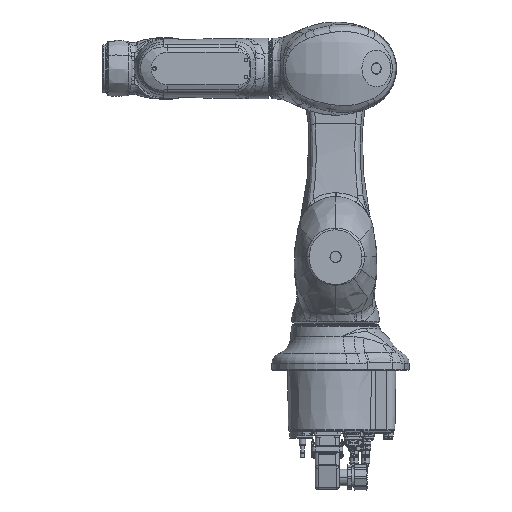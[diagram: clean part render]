
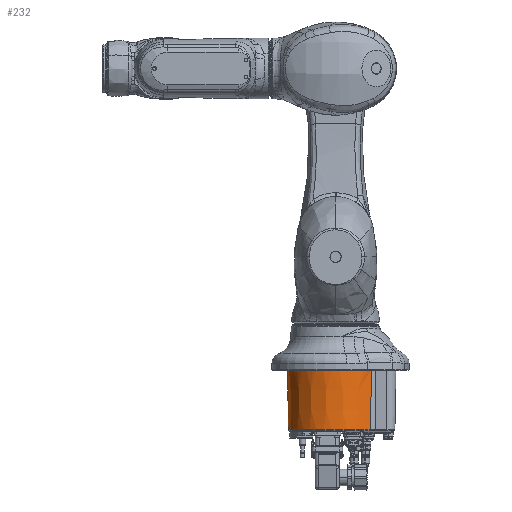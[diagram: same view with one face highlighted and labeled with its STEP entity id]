
A CAD part, left-side view. The second image highlights one B-rep face of the part: STEP entity #232.
In plain terms, the highlighted conical face has half-angle 1 degrees and reference radius 85 mm.
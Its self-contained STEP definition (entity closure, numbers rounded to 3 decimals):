
#62=CARTESIAN_POINT('Axis2P3D Location',(0.,0.,-108.)) ;
#67=CARTESIAN_POINT('Line Origine',(-57.649,-63.857,-49.)) ;
#71=CARTESIAN_POINT('Vertex',(-58.231,-64.502,0.729)) ;
#73=CARTESIAN_POINT('Vertex',(-56.968,-63.103,-107.224)) ;
#76=CARTESIAN_POINT('Axis2P3D Location',(0.,0.,0.729)) ;
#80=CARTESIAN_POINT('Vertex',(-75.676,-42.713,0.729)) ;
#84=CARTESIAN_POINT('Control Point',(-75.676,-42.713,0.729)) ;
#85=CARTESIAN_POINT('Control Point',(-76.383,-41.46,0.729)) ;
#86=CARTESIAN_POINT('Control Point',(-77.062,-40.191,0.568)) ;
#87=CARTESIAN_POINT('Control Point',(-77.722,-38.892,0.294)) ;
#88=CARTESIAN_POINT('Control Point',(-78.386,-37.515,0.052)) ;
#89=CARTESIAN_POINT('Control Point',(-79.057,-36.045,0.052)) ;
#90=CARTESIAN_POINT('Vertex',(-79.057,-36.045,0.052)) ;
#93=CARTESIAN_POINT('Axis2P3D Location',(0.,0.,0.052)) ;
#97=CARTESIAN_POINT('Vertex',(-79.057,36.045,0.052)) ;
#101=CARTESIAN_POINT('Control Point',(-75.676,42.713,0.729)) ;
#102=CARTESIAN_POINT('Control Point',(-76.383,41.46,0.729)) ;
#103=CARTESIAN_POINT('Control Point',(-77.064,40.187,0.568)) ;
#104=CARTESIAN_POINT('Control Point',(-77.721,38.894,0.294)) ;
#105=CARTESIAN_POINT('Control Point',(-78.386,37.515,0.052)) ;
#106=CARTESIAN_POINT('Control Point',(-79.057,36.045,0.052)) ;
#107=CARTESIAN_POINT('Vertex',(-75.676,42.713,0.729)) ;
#110=CARTESIAN_POINT('Axis2P3D Location',(0.,0.,0.729)) ;
#114=CARTESIAN_POINT('Vertex',(-42.713,75.676,0.729)) ;
#118=CARTESIAN_POINT('Control Point',(-42.713,75.676,0.729)) ;
#119=CARTESIAN_POINT('Control Point',(-41.46,76.383,0.729)) ;
#120=CARTESIAN_POINT('Control Point',(-40.191,77.062,0.568)) ;
#121=CARTESIAN_POINT('Control Point',(-38.892,77.722,0.294)) ;
#122=CARTESIAN_POINT('Control Point',(-37.515,78.386,0.052)) ;
#123=CARTESIAN_POINT('Control Point',(-36.045,79.057,0.052)) ;
#124=CARTESIAN_POINT('Vertex',(-36.045,79.057,0.052)) ;
#127=CARTESIAN_POINT('Axis2P3D Location',(0.,0.,0.052)) ;
#131=CARTESIAN_POINT('Vertex',(36.045,79.057,0.052)) ;
#135=CARTESIAN_POINT('Control Point',(42.713,75.676,0.729)) ;
#136=CARTESIAN_POINT('Control Point',(41.46,76.383,0.729)) ;
#137=CARTESIAN_POINT('Control Point',(40.187,77.064,0.568)) ;
#138=CARTESIAN_POINT('Control Point',(38.894,77.721,0.294)) ;
#139=CARTESIAN_POINT('Control Point',(37.515,78.386,0.052)) ;
#140=CARTESIAN_POINT('Control Point',(36.045,79.057,0.052)) ;
#141=CARTESIAN_POINT('Vertex',(42.713,75.676,0.729)) ;
#144=CARTESIAN_POINT('Axis2P3D Location',(0.,0.,0.729)) ;
#148=CARTESIAN_POINT('Vertex',(75.676,42.713,0.729)) ;
#152=CARTESIAN_POINT('Control Point',(75.676,42.713,0.729)) ;
#153=CARTESIAN_POINT('Control Point',(76.383,41.46,0.729)) ;
#154=CARTESIAN_POINT('Control Point',(77.062,40.191,0.568)) ;
#155=CARTESIAN_POINT('Control Point',(77.722,38.892,0.294)) ;
#156=CARTESIAN_POINT('Control Point',(78.386,37.515,0.052)) ;
#157=CARTESIAN_POINT('Control Point',(79.057,36.045,0.052)) ;
#158=CARTESIAN_POINT('Vertex',(79.057,36.045,0.052)) ;
#161=CARTESIAN_POINT('Axis2P3D Location',(0.,0.,0.052)) ;
#165=CARTESIAN_POINT('Vertex',(79.057,-36.045,0.052)) ;
#169=CARTESIAN_POINT('Control Point',(75.676,-42.713,0.729)) ;
#170=CARTESIAN_POINT('Control Point',(76.383,-41.46,0.729)) ;
#171=CARTESIAN_POINT('Control Point',(77.064,-40.187,0.568)) ;
#172=CARTESIAN_POINT('Control Point',(77.721,-38.894,0.294)) ;
#173=CARTESIAN_POINT('Control Point',(78.386,-37.515,0.052)) ;
#174=CARTESIAN_POINT('Control Point',(79.057,-36.045,0.052)) ;
#175=CARTESIAN_POINT('Vertex',(75.676,-42.713,0.729)) ;
#178=CARTESIAN_POINT('Axis2P3D Location',(0.,0.,0.729)) ;
#182=CARTESIAN_POINT('Vertex',(58.231,-64.502,0.729)) ;
#185=CARTESIAN_POINT('Line Origine',(57.649,-63.857,-49.)) ;
#189=CARTESIAN_POINT('Vertex',(56.968,-63.103,-107.224)) ;
#192=CARTESIAN_POINT('Axis2P3D Location',(0.,0.,-107.224)) ;
#196=CARTESIAN_POINT('Vertex',(-70.53,-47.464,-107.224)) ;
#200=CARTESIAN_POINT('Control Point',(-70.096,-48.102,-107.224)) ;
#201=CARTESIAN_POINT('Control Point',(-70.242,-47.89,-107.224)) ;
#202=CARTESIAN_POINT('Control Point',(-70.386,-47.677,-107.224)) ;
#203=CARTESIAN_POINT('Control Point',(-70.53,-47.464,-107.224)) ;
#204=CARTESIAN_POINT('Vertex',(-70.096,-48.102,-107.224)) ;
#207=CARTESIAN_POINT('Axis2P3D Location',(0.,0.,-107.224)) ;
#63=DIRECTION('Axis2P3D Direction',(0.,0.,1.)) ;
#64=DIRECTION('Axis2P3D XDirection',(0.67,-0.742,0.)) ;
#68=DIRECTION('Vector Direction',(-0.012,-0.013,1.)) ;
#77=DIRECTION('Axis2P3D Direction',(0.,0.,1.)) ;
#94=DIRECTION('Axis2P3D Direction',(0.,0.,1.)) ;
#111=DIRECTION('Axis2P3D Direction',(0.,0.,1.)) ;
#128=DIRECTION('Axis2P3D Direction',(0.,0.,1.)) ;
#145=DIRECTION('Axis2P3D Direction',(0.,0.,1.)) ;
#162=DIRECTION('Axis2P3D Direction',(0.,0.,1.)) ;
#179=DIRECTION('Axis2P3D Direction',(0.,0.,1.)) ;
#186=DIRECTION('Vector Direction',(0.012,-0.013,1.)) ;
#193=DIRECTION('Axis2P3D Direction',(0.,0.,1.)) ;
#208=DIRECTION('Axis2P3D Direction',(0.,0.,1.)) ;
#65=AXIS2_PLACEMENT_3D('Cone Axis2P3D',#62,#63,#64) ;
#78=AXIS2_PLACEMENT_3D('Circle Axis2P3D',#76,#77,$) ;
#95=AXIS2_PLACEMENT_3D('Circle Axis2P3D',#93,#94,$) ;
#112=AXIS2_PLACEMENT_3D('Circle Axis2P3D',#110,#111,$) ;
#129=AXIS2_PLACEMENT_3D('Circle Axis2P3D',#127,#128,$) ;
#146=AXIS2_PLACEMENT_3D('Circle Axis2P3D',#144,#145,$) ;
#163=AXIS2_PLACEMENT_3D('Circle Axis2P3D',#161,#162,$) ;
#180=AXIS2_PLACEMENT_3D('Circle Axis2P3D',#178,#179,$) ;
#194=AXIS2_PLACEMENT_3D('Circle Axis2P3D',#192,#193,$) ;
#209=AXIS2_PLACEMENT_3D('Circle Axis2P3D',#207,#208,$) ;
#213=ORIENTED_EDGE('',*,*,#75,.F.) ;
#214=ORIENTED_EDGE('',*,*,#82,.T.) ;
#215=ORIENTED_EDGE('',*,*,#92,.T.) ;
#216=ORIENTED_EDGE('',*,*,#99,.T.) ;
#217=ORIENTED_EDGE('',*,*,#109,.T.) ;
#218=ORIENTED_EDGE('',*,*,#116,.T.) ;
#219=ORIENTED_EDGE('',*,*,#126,.T.) ;
#220=ORIENTED_EDGE('',*,*,#133,.T.) ;
#221=ORIENTED_EDGE('',*,*,#143,.T.) ;
#222=ORIENTED_EDGE('',*,*,#150,.T.) ;
#223=ORIENTED_EDGE('',*,*,#160,.T.) ;
#224=ORIENTED_EDGE('',*,*,#167,.T.) ;
#225=ORIENTED_EDGE('',*,*,#177,.T.) ;
#226=ORIENTED_EDGE('',*,*,#184,.T.) ;
#227=ORIENTED_EDGE('',*,*,#191,.T.) ;
#228=ORIENTED_EDGE('',*,*,#198,.F.) ;
#229=ORIENTED_EDGE('',*,*,#206,.F.) ;
#230=ORIENTED_EDGE('',*,*,#211,.F.) ;
#69=VECTOR('Line Direction',#68,1.) ;
#187=VECTOR('Line Direction',#186,1.) ;
#232=ADVANCED_FACE('BASE',(#231),#66,.T.) ;
#83=B_SPLINE_CURVE_WITH_KNOTS('',5,(#84,#85,#86,#87,#88,#89),.UNSPECIFIED.,.F.,.U.,(6,6),(10.823,21.648),.UNSPECIFIED.) ;
#100=B_SPLINE_CURVE_WITH_KNOTS('',5,(#101,#102,#103,#104,#105,#106),.UNSPECIFIED.,.F.,.U.,(6,6),(10.823,21.649),.UNSPECIFIED.) ;
#117=B_SPLINE_CURVE_WITH_KNOTS('',5,(#118,#119,#120,#121,#122,#123),.UNSPECIFIED.,.F.,.U.,(6,6),(10.823,21.648),.UNSPECIFIED.) ;
#134=B_SPLINE_CURVE_WITH_KNOTS('',5,(#135,#136,#137,#138,#139,#140),.UNSPECIFIED.,.F.,.U.,(6,6),(10.823,21.649),.UNSPECIFIED.) ;
#151=B_SPLINE_CURVE_WITH_KNOTS('',5,(#152,#153,#154,#155,#156,#157),.UNSPECIFIED.,.F.,.U.,(6,6),(10.823,21.648),.UNSPECIFIED.) ;
#168=B_SPLINE_CURVE_WITH_KNOTS('',5,(#169,#170,#171,#172,#173,#174),.UNSPECIFIED.,.F.,.U.,(6,6),(10.823,21.649),.UNSPECIFIED.) ;
#199=B_SPLINE_CURVE_WITH_KNOTS('',3,(#200,#201,#202,#203),.UNSPECIFIED.,.F.,.U.,(4,4),(16.49,17.69),.UNSPECIFIED.) ;
#79=CIRCLE('generated circle',#78,86.898) ;
#96=CIRCLE('generated circle',#95,86.886) ;
#113=CIRCLE('generated circle',#112,86.898) ;
#130=CIRCLE('generated circle',#129,86.886) ;
#147=CIRCLE('generated circle',#146,86.898) ;
#164=CIRCLE('generated circle',#163,86.886) ;
#181=CIRCLE('generated circle',#180,86.898) ;
#195=CIRCLE('generated circle',#194,85.014) ;
#210=CIRCLE('generated circle',#209,85.014) ;
#66=CONICAL_SURFACE('Cone',#65,85.,0.017) ;
#75=EDGE_CURVE('',#72,#74,#70,.F.) ;
#82=EDGE_CURVE('',#72,#81,#79,.F.) ;
#92=EDGE_CURVE('',#81,#91,#83,.T.) ;
#99=EDGE_CURVE('',#91,#98,#96,.F.) ;
#109=EDGE_CURVE('',#98,#108,#100,.F.) ;
#116=EDGE_CURVE('',#108,#115,#113,.F.) ;
#126=EDGE_CURVE('',#115,#125,#117,.T.) ;
#133=EDGE_CURVE('',#125,#132,#130,.F.) ;
#143=EDGE_CURVE('',#132,#142,#134,.F.) ;
#150=EDGE_CURVE('',#142,#149,#147,.F.) ;
#160=EDGE_CURVE('',#149,#159,#151,.T.) ;
#167=EDGE_CURVE('',#159,#166,#164,.F.) ;
#177=EDGE_CURVE('',#166,#176,#168,.F.) ;
#184=EDGE_CURVE('',#176,#183,#181,.F.) ;
#191=EDGE_CURVE('',#183,#190,#188,.F.) ;
#198=EDGE_CURVE('',#197,#190,#195,.F.) ;
#206=EDGE_CURVE('',#205,#197,#199,.T.) ;
#211=EDGE_CURVE('',#74,#205,#210,.F.) ;
#212=EDGE_LOOP('',(#213,#214,#215,#216,#217,#218,#219,#220,#221,#222,#223,#224,#225,#226,#227,#228,#229,#230)) ;
#231=FACE_OUTER_BOUND('',#212,.T.) ;
#70=LINE('Line',#67,#69) ;
#188=LINE('Line',#185,#187) ;
#72=VERTEX_POINT('',#71) ;
#74=VERTEX_POINT('',#73) ;
#81=VERTEX_POINT('',#80) ;
#91=VERTEX_POINT('',#90) ;
#98=VERTEX_POINT('',#97) ;
#108=VERTEX_POINT('',#107) ;
#115=VERTEX_POINT('',#114) ;
#125=VERTEX_POINT('',#124) ;
#132=VERTEX_POINT('',#131) ;
#142=VERTEX_POINT('',#141) ;
#149=VERTEX_POINT('',#148) ;
#159=VERTEX_POINT('',#158) ;
#166=VERTEX_POINT('',#165) ;
#176=VERTEX_POINT('',#175) ;
#183=VERTEX_POINT('',#182) ;
#190=VERTEX_POINT('',#189) ;
#197=VERTEX_POINT('',#196) ;
#205=VERTEX_POINT('',#204) ;
